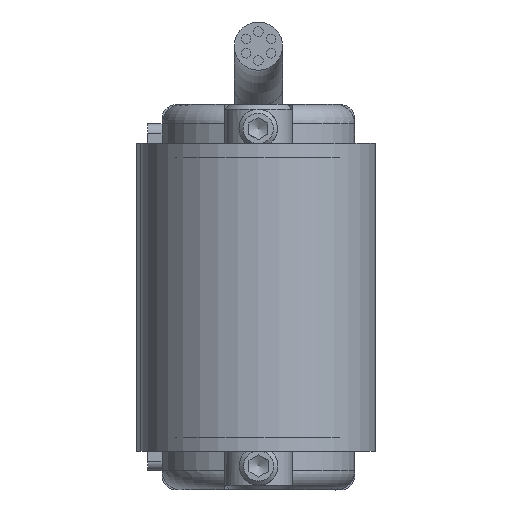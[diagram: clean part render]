
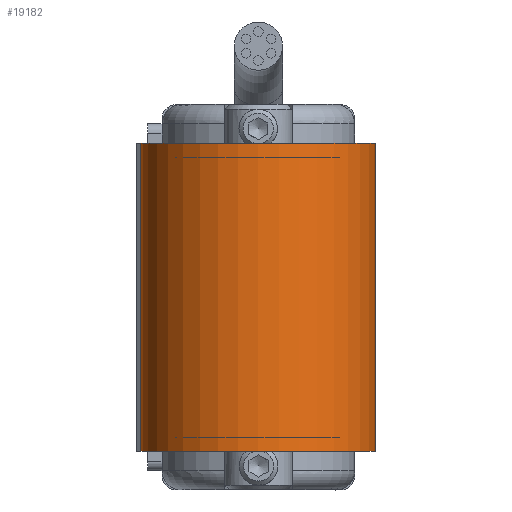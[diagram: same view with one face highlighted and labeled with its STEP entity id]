
A CAD part, front view. The second image highlights one B-rep face of the part: STEP entity #19182.
In plain terms, the highlighted cylindrical face has radius 12.2 mm (diameter 24.4 mm), a partial arc.
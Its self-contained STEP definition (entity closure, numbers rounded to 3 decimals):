
#878=CIRCLE('',#20499,12.2);
#879=CIRCLE('',#20504,12.2);
#1678=CYLINDRICAL_SURFACE('',#20503,12.2);
#2121=FACE_OUTER_BOUND('',#3161,.T.);
#3161=EDGE_LOOP('',(#13362,#13363,#13364,#13365));
#4562=LINE('',#28760,#6131);
#4563=LINE('',#28764,#6132);
#6131=VECTOR('',#23415,10.);
#6132=VECTOR('',#23420,10.);
#7693=VERTEX_POINT('',#28736);
#7697=VERTEX_POINT('',#28744);
#7701=VERTEX_POINT('',#28758);
#7702=VERTEX_POINT('',#28762);
#9838=EDGE_CURVE('',#7693,#7697,#878,.T.);
#9845=EDGE_CURVE('',#7697,#7701,#4562,.T.);
#9846=EDGE_CURVE('',#7701,#7702,#879,.T.);
#9847=EDGE_CURVE('',#7693,#7702,#4563,.T.);
#13362=ORIENTED_EDGE('',*,*,#9846,.T.);
#13363=ORIENTED_EDGE('',*,*,#9847,.F.);
#13364=ORIENTED_EDGE('',*,*,#9838,.T.);
#13365=ORIENTED_EDGE('',*,*,#9845,.T.);
#19182=ADVANCED_FACE('',(#2121),#1678,.T.);
#20499=AXIS2_PLACEMENT_3D('',#28746,#23401,#23402);
#20503=AXIS2_PLACEMENT_3D('',#28761,#23416,#23417);
#20504=AXIS2_PLACEMENT_3D('',#28763,#23418,#23419);
#23401=DIRECTION('center_axis',(0.,0.,
-1.));
#23402=DIRECTION('ref_axis',(1.,0.,0.));
#23415=DIRECTION('',(0.,0.,-1.));
#23416=DIRECTION('center_axis',(0.,0.,
-1.));
#23417=DIRECTION('ref_axis',(1.,0.,0.));
#23418=DIRECTION('center_axis',(0.,0.,
1.));
#23419=DIRECTION('ref_axis',(1.,0.,0.));
#23420=DIRECTION('',(0.,0.,-1.));
#28736=CARTESIAN_POINT('',(12.2,-180.,16.));
#28744=CARTESIAN_POINT('',(-12.2,-180.,16.));
#28746=CARTESIAN_POINT('Origin',(0.,-180.,16.));
#28758=CARTESIAN_POINT('',(-12.2,-180.,-16.));
#28760=CARTESIAN_POINT('',(-12.2,-180.,0.));
#28761=CARTESIAN_POINT('Origin',(0.,-180.,0.));
#28762=CARTESIAN_POINT('',(12.2,-180.,-16.));
#28763=CARTESIAN_POINT('Origin',(0.,-180.,-16.));
#28764=CARTESIAN_POINT('',(12.2,-180.,0.));
